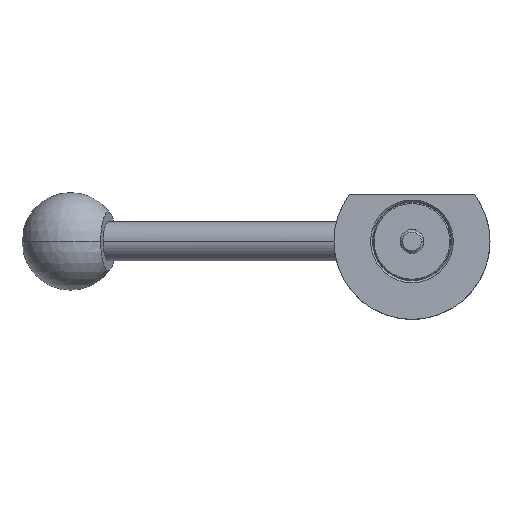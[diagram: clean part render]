
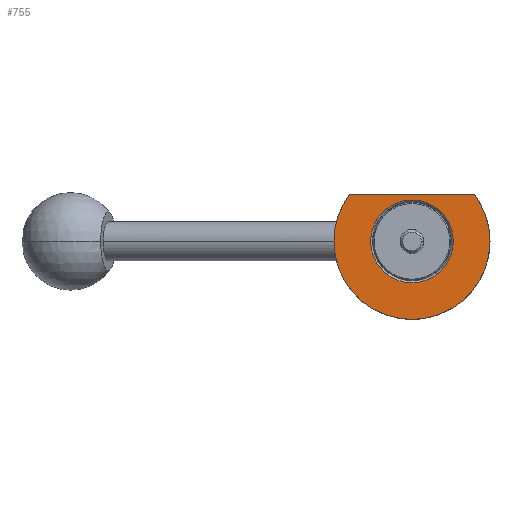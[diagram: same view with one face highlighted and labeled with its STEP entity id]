
A CAD part, front view. The second image highlights one B-rep face of the part: STEP entity #755.
In plain terms, the highlighted planar face has unit normal (0, -1, 0).
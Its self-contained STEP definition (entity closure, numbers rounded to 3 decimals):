
#11 = CARTESIAN_POINT ( 'NONE',  ( 0., -10., 0. ) ) ;
#108 = EDGE_LOOP ( 'NONE', ( #1690, #414, #1580, #1910 ) ) ;
#138 = VERTEX_POINT ( 'NONE', #543 ) ;
#160 = DIRECTION ( 'NONE',  ( -1., 0., 0. ) ) ;
#252 = CIRCLE ( 'NONE', #1701, 20. ) ;
#264 = VERTEX_POINT ( 'NONE', #404 ) ;
#290 = DIRECTION ( 'NONE',  ( 0., 1., 0. ) ) ;
#295 = ORIENTED_EDGE ( 'NONE', *, *, #1737, .T. ) ;
#336 = DIRECTION ( 'NONE',  ( -1., 0., 0. ) ) ;
#389 = EDGE_CURVE ( 'NONE', #1157, #887, #1275, .T. ) ;
#404 = CARTESIAN_POINT ( 'NONE',  ( -20., -10., 0. ) ) ;
#414 = ORIENTED_EDGE ( 'NONE', *, *, #389, .T. ) ;
#420 = EDGE_LOOP ( 'NONE', ( #575, #295 ) ) ;
#477 = CARTESIAN_POINT ( 'NONE',  ( 0., -10., 0. ) ) ;
#487 = EDGE_CURVE ( 'NONE', #1157, #966, #554, .T. ) ;
#495 = EDGE_CURVE ( 'NONE', #138, #726, #1878, .T. ) ;
#499 = CARTESIAN_POINT ( 'NONE',  ( 20., -10., 0. ) ) ;
#542 = DIRECTION ( 'NONE',  ( -1., 0., 0. ) ) ;
#543 = CARTESIAN_POINT ( 'NONE',  ( 10.6, -10., 0. ) ) ;
#554 = CIRCLE ( 'NONE', #645, 20. ) ;
#575 = ORIENTED_EDGE ( 'NONE', *, *, #495, .T. ) ;
#582 = EDGE_CURVE ( 'NONE', #264, #887, #1235, .T. ) ;
#618 = CARTESIAN_POINT ( 'NONE',  ( -10.6, -10., 0. ) ) ;
#645 = AXIS2_PLACEMENT_3D ( 'NONE', #1301, #1598, #1633 ) ;
#726 = VERTEX_POINT ( 'NONE', #618 ) ;
#752 = VECTOR ( 'NONE', #336, 1000. ) ;
#755 = ADVANCED_FACE ( 'NONE', ( #909, #1243 ), #1095, .T. ) ;
#887 = VERTEX_POINT ( 'NONE', #964 ) ;
#891 = AXIS2_PLACEMENT_3D ( 'NONE', #477, #1439, #1899 ) ;
#909 = FACE_BOUND ( 'NONE', #420, .T. ) ;
#964 = CARTESIAN_POINT ( 'NONE',  ( -16.001, -10., 11.999 ) ) ;
#966 = VERTEX_POINT ( 'NONE', #499 ) ;
#990 = CIRCLE ( 'NONE', #1150, 10.6 ) ;
#1095 = PLANE ( 'NONE',  #1410 ) ;
#1106 = CARTESIAN_POINT ( 'NONE',  ( -10.6, -10., 11.999 ) ) ;
#1150 = AXIS2_PLACEMENT_3D ( 'NONE', #1213, #1827, #542 ) ;
#1157 = VERTEX_POINT ( 'NONE', #1371 ) ;
#1213 = CARTESIAN_POINT ( 'NONE',  ( 0., -10., 0. ) ) ;
#1235 = CIRCLE ( 'NONE', #1350, 20. ) ;
#1243 = FACE_OUTER_BOUND ( 'NONE', #108, .T. ) ;
#1275 = LINE ( 'NONE', #1106, #752 ) ;
#1301 = CARTESIAN_POINT ( 'NONE',  ( 0., -10., 0. ) ) ;
#1341 = DIRECTION ( 'NONE',  ( -1., 0., 0. ) ) ;
#1350 = AXIS2_PLACEMENT_3D ( 'NONE', #1847, #290, #1341 ) ;
#1371 = CARTESIAN_POINT ( 'NONE',  ( 16.001, -10., 11.999 ) ) ;
#1410 = AXIS2_PLACEMENT_3D ( 'NONE', #1869, #1542, #1999 ) ;
#1439 = DIRECTION ( 'NONE',  ( 0., 1., 0. ) ) ;
#1542 = DIRECTION ( 'NONE',  ( 0., -1., 0. ) ) ;
#1564 = DIRECTION ( 'NONE',  ( 0., 1., 0. ) ) ;
#1580 = ORIENTED_EDGE ( 'NONE', *, *, #582, .F. ) ;
#1598 = DIRECTION ( 'NONE',  ( 0., 1., 0. ) ) ;
#1633 = DIRECTION ( 'NONE',  ( -1., 0., 0. ) ) ;
#1690 = ORIENTED_EDGE ( 'NONE', *, *, #487, .F. ) ;
#1701 = AXIS2_PLACEMENT_3D ( 'NONE', #11, #1564, #160 ) ;
#1737 = EDGE_CURVE ( 'NONE', #726, #138, #990, .T. ) ;
#1827 = DIRECTION ( 'NONE',  ( 0., 1., 0. ) ) ;
#1829 = EDGE_CURVE ( 'NONE', #966, #264, #252, .T. ) ;
#1847 = CARTESIAN_POINT ( 'NONE',  ( 0., -10., 0. ) ) ;
#1869 = CARTESIAN_POINT ( 'NONE',  ( -10.6, -10., 0. ) ) ;
#1878 = CIRCLE ( 'NONE', #891, 10.6 ) ;
#1899 = DIRECTION ( 'NONE',  ( -1., 0., 0. ) ) ;
#1910 = ORIENTED_EDGE ( 'NONE', *, *, #1829, .F. ) ;
#1999 = DIRECTION ( 'NONE',  ( 1., 0., 0. ) ) ;
